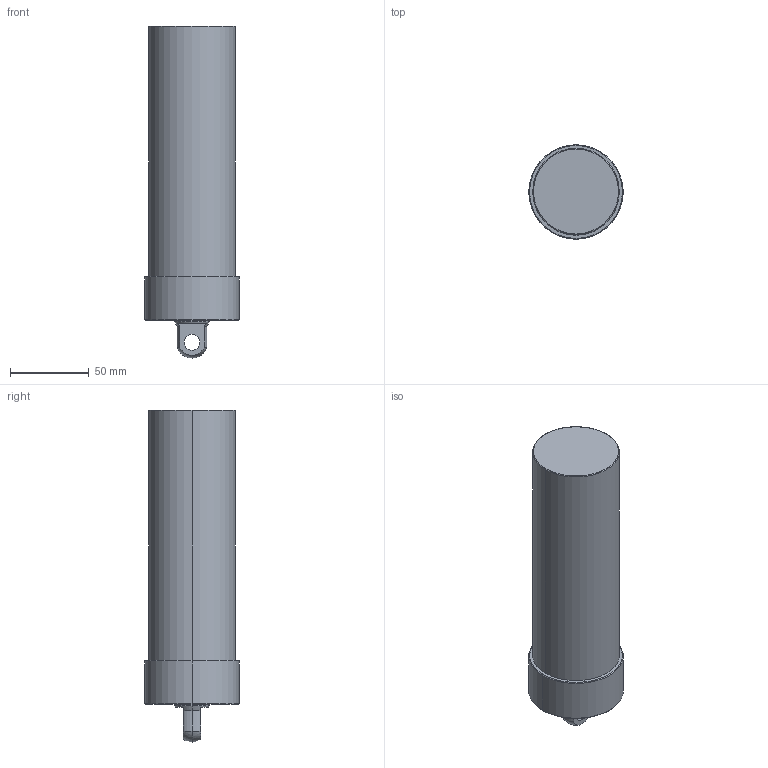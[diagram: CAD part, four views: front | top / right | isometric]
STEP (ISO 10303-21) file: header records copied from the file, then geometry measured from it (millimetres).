
FILE_DESCRIPTION (( 'STEP AP203' ), '1' );
FILE_NAME ('CLLU-055GP-130.STEP', '2020-01-06T07:46:51', ( '' ), ( '' ), 'SwSTEP 2.0', 'SolidWorks 2015', '' );
FILE_SCHEMA (( 'CONFIG_CONTROL_DESIGN' ));
Length unit declared in the file: millimetre
Products named in the file (1): CLLU-055GP-130
Bounding box: 60 x 60 x 211 mm (x, y, z)
Volume: 459154.3 mm3; surface area: 40727 mm2
Topology: 1 solids, 1 shells, 58 faces, 131 edges, 75 vertices
Faces by surface type: cylinder 23, cone 18, plane 9, torus 6, sphere 2
Entity records: 1658 total; most frequent: DIRECTION 311, CARTESIAN_POINT 269, ORIENTED_EDGE 246, AXIS2_PLACEMENT_3D 133, EDGE_CURVE 123, VERTEX_POINT 75, CIRCLE 74, EDGE_LOOP 68
